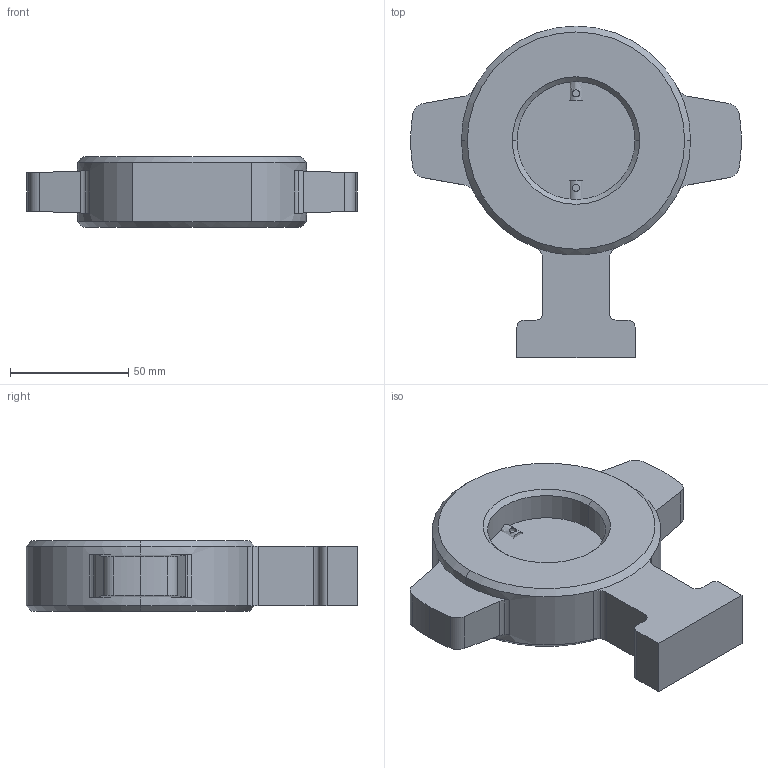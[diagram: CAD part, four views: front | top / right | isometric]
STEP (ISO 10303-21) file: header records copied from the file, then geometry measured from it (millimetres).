
FILE_DESCRIPTION((''),'2;1');
FILE_NAME('KL000002.dwg.stp','2006-10-04T11:29:39',(''),(''),'Mechanical Desktop 2006','Mechanical Desktop 2006',', , ');
FILE_SCHEMA(('AUTOMOTIVE_DESIGN { 1 2 10303 214 0 1 1 1 }'));
Length unit declared in the file: millimetre
Products named in the file (1): Product
Bounding box: 140 x 140.5 x 30 mm (x, y, z)
Volume: 231749.8 mm3; surface area: 38839.4 mm2
Topology: 4 solids, 4 shells, 72 faces, 180 edges, 116 vertices
Faces by surface type: cylinder 31, plane 19, bspline 14, cone 8
Entity records: 2525 total; most frequent: CARTESIAN_POINT 723, DIRECTION 378, ORIENTED_EDGE 360, EDGE_CURVE 180, AXIS2_PLACEMENT_3D 147, VERTEX_POINT 116, VECTOR 84, LINE 84
